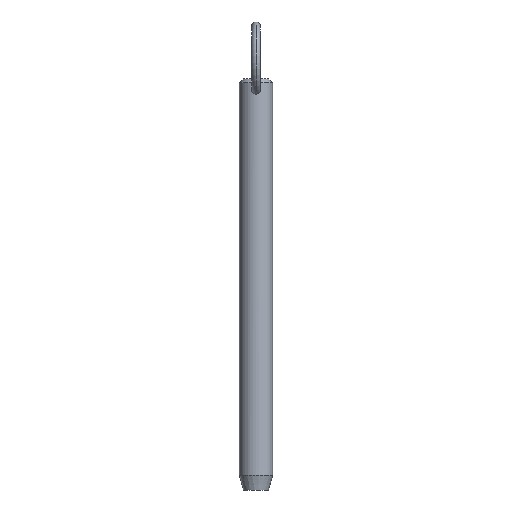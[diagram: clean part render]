
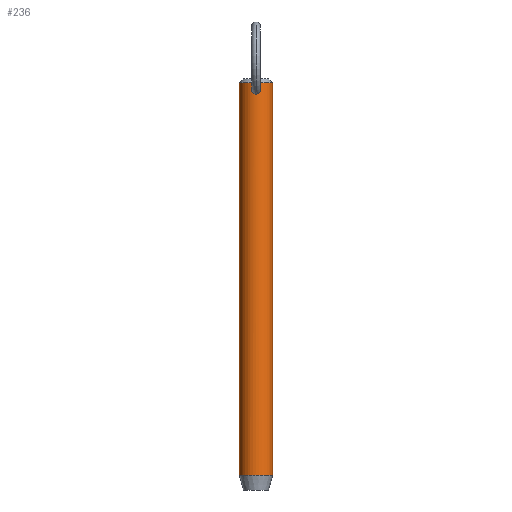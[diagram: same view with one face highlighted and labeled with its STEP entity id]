
A CAD part, front view. The second image highlights one B-rep face of the part: STEP entity #236.
In plain terms, the highlighted cylindrical face has radius 5.55 mm (diameter 11.1 mm), a partial arc.
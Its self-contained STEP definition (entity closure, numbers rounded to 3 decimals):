
#9 = CARTESIAN_POINT ( 'NONE',  ( 1.295, -5.397, 120.582 ) ) ;
#11 = CARTESIAN_POINT ( 'NONE',  ( 1.455, -5.356, 119.238 ) ) ;
#12 = CARTESIAN_POINT ( 'NONE',  ( 0.786, -5.497, 121.257 ) ) ;
#16 = CARTESIAN_POINT ( 'NONE',  ( 0.213, -5.547, 118.088 ) ) ;
#26 = CARTESIAN_POINT ( 'NONE',  ( -0.976, -5.464, 118.431 ) ) ;
#30 = EDGE_CURVE ( 'NONE', #133, #86, #62, .T. ) ;
#32 = DIRECTION ( 'NONE',  ( -1., 0., 0. ) ) ;
#52 = FACE_OUTER_BOUND ( 'NONE', #361, .T. ) ;
#53 = CARTESIAN_POINT ( 'NONE',  ( 0.977, -5.464, 118.432 ) ) ;
#56 = AXIS2_PLACEMENT_3D ( 'NONE', #337, #136, #129 ) ;
#58 = EDGE_LOOP ( 'NONE', ( #356, #484 ) ) ;
#60 = CARTESIAN_POINT ( 'NONE',  ( 0., -5.55, 118.077 ) ) ;
#62 = CIRCLE ( 'NONE', #381, 5.55 ) ;
#64 = CARTESIAN_POINT ( 'NONE',  ( -0.107, -5.55, 118.077 ) ) ;
#70 = VERTEX_POINT ( 'NONE', #192 ) ;
#83 = CIRCLE ( 'NONE', #85, 5.55 ) ;
#85 = AXIS2_PLACEMENT_3D ( 'NONE', #300, #412, #451 ) ;
#86 = VERTEX_POINT ( 'NONE', #514 ) ;
#92 = CARTESIAN_POINT ( 'NONE',  ( 1.503, -5.343, 119.659 ) ) ;
#95 = CARTESIAN_POINT ( 'NONE',  ( 1.5, -5.343, 119.554 ) ) ;
#102 = FACE_BOUND ( 'NONE', #58, .T. ) ;
#105 = CARTESIAN_POINT ( 'NONE',  ( -0.212, -5.547, 118.088 ) ) ;
#118 = B_SPLINE_CURVE_WITH_KNOTS ( 'NONE', 3,
 ( #472, #64, #105, #469, #318, #471, #388, #26, #509, #429, #468, #483, #276, #442, #481, #242, #323, #440, #437, #196, #241, #122, #521, #524, #239, #364 ),
 .UNSPECIFIED., .F., .F.,
 ( 4, 2, 2, 2, 2, 2, 2, 2, 2, 2, 2, 2, 4 ),
 ( 0.01, 0.01, 0.01, 0.011, 0.011, 0.012, 0.012, 0.012, 0.013, 0.013, 0.014, 0.014, 0.015 ),
 .UNSPECIFIED. ) ;
#122 = CARTESIAN_POINT ( 'NONE',  ( -0.513, -5.527, 121.423 ) ) ;
#123 = VECTOR ( 'NONE', #357, 1000. ) ;
#129 = DIRECTION ( 'NONE',  ( -1., 0., 0. ) ) ;
#133 = VERTEX_POINT ( 'NONE', #246 ) ;
#136 = DIRECTION ( 'NONE',  ( 0., 0., -1. ) ) ;
#139 = CARTESIAN_POINT ( 'NONE',  ( -5.55, 0., 116.8 ) ) ;
#143 = VERTEX_POINT ( 'NONE', #406 ) ;
#146 = B_SPLINE_CURVE_WITH_KNOTS ( 'NONE', 3,
 ( #164, #453, #455, #168, #492, #12, #210, #255, #9, #295, #339, #92, #95, #165, #11, #299, #379, #415, #53, #222, #464, #427, #171, #16, #466, #418 ),
 .UNSPECIFIED., .F., .F.,
 ( 4, 2, 2, 2, 2, 2, 2, 2, 2, 2, 2, 2, 4 ),
 ( 0.005, 0.005, 0.005, 0.006, 0.006, 0.007, 0.007, 0.008, 0.008, 0.009, 0.009, 0.009, 0.01 ),
 .UNSPECIFIED. ) ;
#163 = CARTESIAN_POINT ( 'NONE',  ( -5.55, 0., 121.85 ) ) ;
#164 = CARTESIAN_POINT ( 'NONE',  ( 0., -5.55, 121.545 ) ) ;
#165 = CARTESIAN_POINT ( 'NONE',  ( 1.477, -5.35, 119.344 ) ) ;
#168 = CARTESIAN_POINT ( 'NONE',  ( 0.417, -5.535, 121.467 ) ) ;
#171 = CARTESIAN_POINT ( 'NONE',  ( 0.421, -5.535, 118.132 ) ) ;
#185 = VECTOR ( 'NONE', #456, 1000. ) ;
#187 = VERTEX_POINT ( 'NONE', #163 ) ;
#192 = CARTESIAN_POINT ( 'NONE',  ( 0., -5.55, 121.545 ) ) ;
#195 = CARTESIAN_POINT ( 'NONE',  ( 0., 0., -9.2 ) ) ;
#196 = CARTESIAN_POINT ( 'NONE',  ( -0.939, -5.472, 121.11 ) ) ;
#208 = LINE ( 'NONE', #139, #185 ) ;
#210 = CARTESIAN_POINT ( 'NONE',  ( 0.941, -5.471, 121.107 ) ) ;
#211 = ORIENTED_EDGE ( 'NONE', *, *, #501, .F. ) ;
#215 = EDGE_CURVE ( 'NONE', #187, #133, #208, .T. ) ;
#222 = CARTESIAN_POINT ( 'NONE',  ( 0.807, -5.492, 118.306 ) ) ;
#236 = ADVANCED_FACE ( 'NONE', ( #52, #102 ), #496, .T. ) ;
#239 = CARTESIAN_POINT ( 'NONE',  ( -0.106, -5.55, 121.545 ) ) ;
#241 = CARTESIAN_POINT ( 'NONE',  ( -0.785, -5.497, 121.258 ) ) ;
#242 = CARTESIAN_POINT ( 'NONE',  ( -1.485, -5.348, 119.979 ) ) ;
#245 = ORIENTED_EDGE ( 'NONE', *, *, #258, .T. ) ;
#246 = CARTESIAN_POINT ( 'NONE',  ( -5.55, 0., -9.2 ) ) ;
#255 = CARTESIAN_POINT ( 'NONE',  ( 1.194, -5.422, 120.771 ) ) ;
#258 = EDGE_CURVE ( 'NONE', #143, #187, #83, .T. ) ;
#276 = CARTESIAN_POINT ( 'NONE',  ( -1.477, -5.35, 119.342 ) ) ;
#289 = EDGE_CURVE ( 'NONE', #70, #419, #146, .T. ) ;
#295 = CARTESIAN_POINT ( 'NONE',  ( 1.44, -5.36, 120.186 ) ) ;
#299 = CARTESIAN_POINT ( 'NONE',  ( 1.363, -5.38, 118.934 ) ) ;
#300 = CARTESIAN_POINT ( 'NONE',  ( 0., 0., 121.85 ) ) ;
#318 = CARTESIAN_POINT ( 'NONE',  ( -0.523, -5.526, 118.166 ) ) ;
#323 = CARTESIAN_POINT ( 'NONE',  ( -1.44, -5.36, 120.187 ) ) ;
#332 = ORIENTED_EDGE ( 'NONE', *, *, #215, .T. ) ;
#337 = CARTESIAN_POINT ( 'NONE',  ( 0., 0., 116.8 ) ) ;
#339 = CARTESIAN_POINT ( 'NONE',  ( 1.486, -5.347, 119.974 ) ) ;
#356 = ORIENTED_EDGE ( 'NONE', *, *, #289, .T. ) ;
#357 = DIRECTION ( 'NONE',  ( 0., 0., -1. ) ) ;
#361 = EDGE_LOOP ( 'NONE', ( #211, #245, #332, #390 ) ) ;
#364 = CARTESIAN_POINT ( 'NONE',  ( 0., -5.55, 121.545 ) ) ;
#379 = CARTESIAN_POINT ( 'NONE',  ( 1.26, -5.407, 118.743 ) ) ;
#381 = AXIS2_PLACEMENT_3D ( 'NONE', #195, #522, #32 ) ;
#388 = CARTESIAN_POINT ( 'NONE',  ( -0.807, -5.492, 118.305 ) ) ;
#390 = ORIENTED_EDGE ( 'NONE', *, *, #30, .T. ) ;
#406 = CARTESIAN_POINT ( 'NONE',  ( 5.55, 0., 121.85 ) ) ;
#412 = DIRECTION ( 'NONE',  ( 0., 0., -1. ) ) ;
#415 = CARTESIAN_POINT ( 'NONE',  ( 1.055, -5.449, 118.505 ) ) ;
#418 = CARTESIAN_POINT ( 'NONE',  ( 0., -5.55, 118.077 ) ) ;
#419 = VERTEX_POINT ( 'NONE', #60 ) ;
#427 = CARTESIAN_POINT ( 'NONE',  ( 0.523, -5.526, 118.166 ) ) ;
#429 = CARTESIAN_POINT ( 'NONE',  ( -1.26, -5.407, 118.742 ) ) ;
#430 = CARTESIAN_POINT ( 'NONE',  ( 5.55, 0., 116.8 ) ) ;
#437 = CARTESIAN_POINT ( 'NONE',  ( -1.195, -5.421, 120.771 ) ) ;
#440 = CARTESIAN_POINT ( 'NONE',  ( -1.294, -5.398, 120.586 ) ) ;
#441 = LINE ( 'NONE', #430, #123 ) ;
#442 = CARTESIAN_POINT ( 'NONE',  ( -1.5, -5.343, 119.553 ) ) ;
#451 = DIRECTION ( 'NONE',  ( 1., 0., 0. ) ) ;
#453 = CARTESIAN_POINT ( 'NONE',  ( 0.106, -5.55, 121.545 ) ) ;
#455 = CARTESIAN_POINT ( 'NONE',  ( 0.214, -5.547, 121.528 ) ) ;
#456 = DIRECTION ( 'NONE',  ( 0., 0., -1. ) ) ;
#464 = CARTESIAN_POINT ( 'NONE',  ( 0.716, -5.504, 118.252 ) ) ;
#466 = CARTESIAN_POINT ( 'NONE',  ( 0.107, -5.55, 118.077 ) ) ;
#468 = CARTESIAN_POINT ( 'NONE',  ( -1.362, -5.381, 118.932 ) ) ;
#469 = CARTESIAN_POINT ( 'NONE',  ( -0.42, -5.535, 118.132 ) ) ;
#471 = CARTESIAN_POINT ( 'NONE',  ( -0.716, -5.504, 118.252 ) ) ;
#472 = CARTESIAN_POINT ( 'NONE',  ( 0., -5.55, 118.077 ) ) ;
#481 = CARTESIAN_POINT ( 'NONE',  ( -1.503, -5.343, 119.659 ) ) ;
#483 = CARTESIAN_POINT ( 'NONE',  ( -1.455, -5.356, 119.236 ) ) ;
#484 = ORIENTED_EDGE ( 'NONE', *, *, #515, .T. ) ;
#492 = CARTESIAN_POINT ( 'NONE',  ( 0.515, -5.527, 121.422 ) ) ;
#496 = CYLINDRICAL_SURFACE ( 'NONE', #56, 5.55 ) ;
#501 = EDGE_CURVE ( 'NONE', #143, #86, #441, .T. ) ;
#509 = CARTESIAN_POINT ( 'NONE',  ( -1.054, -5.449, 118.504 ) ) ;
#514 = CARTESIAN_POINT ( 'NONE',  ( 5.55, 0., -9.2 ) ) ;
#515 = EDGE_CURVE ( 'NONE', #419, #70, #118, .T. ) ;
#521 = CARTESIAN_POINT ( 'NONE',  ( -0.416, -5.535, 121.467 ) ) ;
#522 = DIRECTION ( 'NONE',  ( 0., 0., 1. ) ) ;
#524 = CARTESIAN_POINT ( 'NONE',  ( -0.211, -5.547, 121.529 ) ) ;
